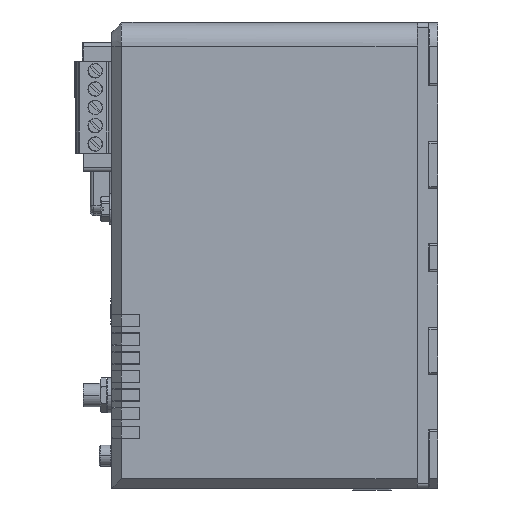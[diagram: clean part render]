
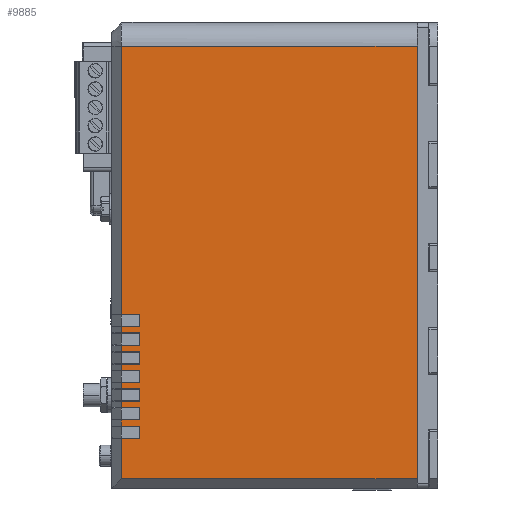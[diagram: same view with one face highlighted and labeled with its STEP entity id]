
A CAD part, left-side view. The second image highlights one B-rep face of the part: STEP entity #9885.
In plain terms, the highlighted planar face has unit normal (-1, 0, 0).
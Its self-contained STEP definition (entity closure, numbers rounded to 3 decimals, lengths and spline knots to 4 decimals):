
#983=DIRECTION('',(0.,-1.,0.));
#984=VECTOR('',#983,0.2);
#985=CARTESIAN_POINT('',(-1.,3.4,-0.6325));
#986=LINE('',#985,#984);
#995=DIRECTION('',(0.,1.,0.));
#996=VECTOR('',#995,0.2);
#997=CARTESIAN_POINT('',(-1.,3.2,-0.7675));
#998=LINE('',#997,#996);
#1011=DIRECTION('',(0.,0.,1.));
#1012=VECTOR('',#1011,0.4325);
#1013=CARTESIAN_POINT('',(-1.,3.4,-2.4));
#1014=LINE('',#1013,#1012);
#1015=DIRECTION('',(0.,0.,-1.));
#1016=VECTOR('',#1015,0.065);
#1017=CARTESIAN_POINT('',(-1.,3.4,-1.7675));
#1018=LINE('',#1017,#1016);
#1019=DIRECTION('',(0.,0.,-1.));
#1020=VECTOR('',#1019,0.065);
#1021=CARTESIAN_POINT('',(-1.,3.4,-1.5675));
#1022=LINE('',#1021,#1020);
#1023=DIRECTION('',(0.,0.,-1.));
#1024=VECTOR('',#1023,0.065);
#1025=CARTESIAN_POINT('',(-1.,3.4,-1.3675));
#1026=LINE('',#1025,#1024);
#1027=DIRECTION('',(0.,0.,-1.));
#1028=VECTOR('',#1027,0.065);
#1029=CARTESIAN_POINT('',(-1.,3.4,-1.1675));
#1030=LINE('',#1029,#1028);
#1031=DIRECTION('',(0.,0.,-1.));
#1032=VECTOR('',#1031,0.065);
#1033=CARTESIAN_POINT('',(-1.,3.4,-0.9675));
#1034=LINE('',#1033,#1032);
#1035=DIRECTION('',(0.,0.,-1.));
#1036=VECTOR('',#1035,0.065);
#1037=CARTESIAN_POINT('',(-1.,3.4,-0.7675));
#1038=LINE('',#1037,#1036);
#1039=DIRECTION('',(0.,0.,-1.));
#1040=VECTOR('',#1039,2.8825);
#1041=CARTESIAN_POINT('',(-1.,3.4,2.25));
#1042=LINE('',#1041,#1040);
#1043=DIRECTION('',(0.,-1.,0.));
#1044=VECTOR('',#1043,3.1805);
#1045=CARTESIAN_POINT('',(-1.,3.4,2.25));
#1046=LINE('',#1045,#1044);
#1047=DIRECTION('',(0.,1.,0.));
#1048=VECTOR('',#1047,3.1805);
#1049=CARTESIAN_POINT('',(-1.,0.2195,-2.4));
#1050=LINE('',#1049,#1048);
#1490=DIRECTION('',(0.,0.,1.));
#1491=VECTOR('',#1490,4.65);
#1492=CARTESIAN_POINT('',(-1.,0.2195,-2.4));
#1493=LINE('',#1492,#1491);
#4577=DIRECTION('',(0.,1.,0.));
#4578=VECTOR('',#4577,0.2);
#4579=CARTESIAN_POINT('',(-1.,3.2,-1.9675));
#4580=LINE('',#4579,#4578);
#4613=DIRECTION('',(0.,-1.,0.));
#4614=VECTOR('',#4613,0.2);
#4615=CARTESIAN_POINT('',(-1.,3.4,-1.8325));
#4616=LINE('',#4615,#4614);
#4621=DIRECTION('',(0.,1.,0.));
#4622=VECTOR('',#4621,0.2);
#4623=CARTESIAN_POINT('',(-1.,3.2,-1.7675));
#4624=LINE('',#4623,#4622);
#4665=DIRECTION('',(0.,-1.,0.));
#4666=VECTOR('',#4665,0.2);
#4667=CARTESIAN_POINT('',(-1.,3.4,-1.6325));
#4668=LINE('',#4667,#4666);
#4673=DIRECTION('',(0.,1.,0.));
#4674=VECTOR('',#4673,0.2);
#4675=CARTESIAN_POINT('',(-1.,3.2,-1.5675));
#4676=LINE('',#4675,#4674);
#4717=DIRECTION('',(0.,-1.,0.));
#4718=VECTOR('',#4717,0.2);
#4719=CARTESIAN_POINT('',(-1.,3.4,-1.4325));
#4720=LINE('',#4719,#4718);
#4725=DIRECTION('',(0.,1.,0.));
#4726=VECTOR('',#4725,0.2);
#4727=CARTESIAN_POINT('',(-1.,3.2,-1.3675));
#4728=LINE('',#4727,#4726);
#4769=DIRECTION('',(0.,-1.,0.));
#4770=VECTOR('',#4769,0.2);
#4771=CARTESIAN_POINT('',(-1.,3.4,-1.2325));
#4772=LINE('',#4771,#4770);
#4777=DIRECTION('',(0.,1.,0.));
#4778=VECTOR('',#4777,0.2);
#4779=CARTESIAN_POINT('',(-1.,3.2,-1.1675));
#4780=LINE('',#4779,#4778);
#4821=DIRECTION('',(0.,-1.,0.));
#4822=VECTOR('',#4821,0.2);
#4823=CARTESIAN_POINT('',(-1.,3.4,-1.0325));
#4824=LINE('',#4823,#4822);
#4829=DIRECTION('',(0.,1.,0.));
#4830=VECTOR('',#4829,0.2);
#4831=CARTESIAN_POINT('',(-1.,3.2,-0.9675));
#4832=LINE('',#4831,#4830);
#4873=DIRECTION('',(0.,-1.,0.));
#4874=VECTOR('',#4873,0.2);
#4875=CARTESIAN_POINT('',(-1.,3.4,-0.8325));
#4876=LINE('',#4875,#4874);
#4881=DIRECTION('',(0.,0.,-1.));
#4882=VECTOR('',#4881,0.135);
#4883=CARTESIAN_POINT('',(-1.,3.2,-0.8325));
#4884=LINE('',#4883,#4882);
#4893=DIRECTION('',(0.,0.,-1.));
#4894=VECTOR('',#4893,0.135);
#4895=CARTESIAN_POINT('',(-1.,3.2,-1.0325));
#4896=LINE('',#4895,#4894);
#4905=DIRECTION('',(0.,0.,-1.));
#4906=VECTOR('',#4905,0.135);
#4907=CARTESIAN_POINT('',(-1.,3.2,-1.2325));
#4908=LINE('',#4907,#4906);
#4917=DIRECTION('',(0.,0.,-1.));
#4918=VECTOR('',#4917,0.135);
#4919=CARTESIAN_POINT('',(-1.,3.2,-1.4325));
#4920=LINE('',#4919,#4918);
#4929=DIRECTION('',(0.,0.,-1.));
#4930=VECTOR('',#4929,0.135);
#4931=CARTESIAN_POINT('',(-1.,3.2,-1.6325));
#4932=LINE('',#4931,#4930);
#4941=DIRECTION('',(0.,0.,-1.));
#4942=VECTOR('',#4941,0.135);
#4943=CARTESIAN_POINT('',(-1.,3.2,-1.8325));
#4944=LINE('',#4943,#4942);
#4957=DIRECTION('',(0.,0.,-1.));
#4958=VECTOR('',#4957,0.135);
#4959=CARTESIAN_POINT('',(-1.,3.2,-0.6325));
#4960=LINE('',#4959,#4958);
#7024=CARTESIAN_POINT('',(-1.,0.2195,-2.4));
#7026=VERTEX_POINT('',#7024);
#7267=CARTESIAN_POINT('',(-1.,0.2195,2.25));
#7268=VERTEX_POINT('',#7267);
#7625=CARTESIAN_POINT('',(-1.,3.2,-1.8325));
#7626=CARTESIAN_POINT('',(-1.,3.2,-1.9675));
#7627=VERTEX_POINT('',#7625);
#7628=VERTEX_POINT('',#7626);
#7629=CARTESIAN_POINT('',(-1.,3.2,-1.6325));
#7630=CARTESIAN_POINT('',(-1.,3.2,-1.7675));
#7631=VERTEX_POINT('',#7629);
#7632=VERTEX_POINT('',#7630);
#7633=CARTESIAN_POINT('',(-1.,3.2,-1.4325));
#7634=CARTESIAN_POINT('',(-1.,3.2,-1.5675));
#7635=VERTEX_POINT('',#7633);
#7636=VERTEX_POINT('',#7634);
#7637=CARTESIAN_POINT('',(-1.,3.2,-1.2325));
#7638=CARTESIAN_POINT('',(-1.,3.2,-1.3675));
#7639=VERTEX_POINT('',#7637);
#7640=VERTEX_POINT('',#7638);
#7641=CARTESIAN_POINT('',(-1.,3.2,-1.0325));
#7642=CARTESIAN_POINT('',(-1.,3.2,-1.1675));
#7643=VERTEX_POINT('',#7641);
#7644=VERTEX_POINT('',#7642);
#7645=CARTESIAN_POINT('',(-1.,3.2,-0.8325));
#7646=CARTESIAN_POINT('',(-1.,3.2,-0.9675));
#7647=VERTEX_POINT('',#7645);
#7648=VERTEX_POINT('',#7646);
#7649=CARTESIAN_POINT('',(-1.,3.2,-0.6325));
#7650=CARTESIAN_POINT('',(-1.,3.2,-0.7675));
#7651=VERTEX_POINT('',#7649);
#7652=VERTEX_POINT('',#7650);
#8291=CARTESIAN_POINT('',(-1.,3.4,-2.4));
#8292=CARTESIAN_POINT('',(-1.,3.4,-1.9675));
#8293=VERTEX_POINT('',#8291);
#8294=VERTEX_POINT('',#8292);
#8295=CARTESIAN_POINT('',(-1.,3.4,-1.7675));
#8296=CARTESIAN_POINT('',(-1.,3.4,-1.8325));
#8297=VERTEX_POINT('',#8295);
#8298=VERTEX_POINT('',#8296);
#8299=CARTESIAN_POINT('',(-1.,3.4,-1.5675));
#8300=CARTESIAN_POINT('',(-1.,3.4,-1.6325));
#8301=VERTEX_POINT('',#8299);
#8302=VERTEX_POINT('',#8300);
#8303=CARTESIAN_POINT('',(-1.,3.4,-1.3675));
#8304=CARTESIAN_POINT('',(-1.,3.4,-1.4325));
#8305=VERTEX_POINT('',#8303);
#8306=VERTEX_POINT('',#8304);
#8307=CARTESIAN_POINT('',(-1.,3.4,-1.1675));
#8308=CARTESIAN_POINT('',(-1.,3.4,-1.2325));
#8309=VERTEX_POINT('',#8307);
#8310=VERTEX_POINT('',#8308);
#8311=CARTESIAN_POINT('',(-1.,3.4,-0.9675));
#8312=CARTESIAN_POINT('',(-1.,3.4,-1.0325));
#8313=VERTEX_POINT('',#8311);
#8314=VERTEX_POINT('',#8312);
#8315=CARTESIAN_POINT('',(-1.,3.4,-0.7675));
#8316=CARTESIAN_POINT('',(-1.,3.4,-0.8325));
#8317=VERTEX_POINT('',#8315);
#8318=VERTEX_POINT('',#8316);
#8319=CARTESIAN_POINT('',(-1.,3.4,2.25));
#8320=CARTESIAN_POINT('',(-1.,3.4,-0.6325));
#8321=VERTEX_POINT('',#8319);
#8322=VERTEX_POINT('',#8320);
#9816=CARTESIAN_POINT('',(-1.,0.2598,-0.075));
#9817=DIRECTION('',(1.,0.,0.));
#9818=DIRECTION('',(0.,0.,1.));
#9819=AXIS2_PLACEMENT_3D('',#9816,#9817,#9818);
#9820=PLANE('',#9819);
#9822=ORIENTED_EDGE('',*,*,#9821,.T.);
#9824=ORIENTED_EDGE('',*,*,#9823,.F.);
#9826=ORIENTED_EDGE('',*,*,#9825,.F.);
#9828=ORIENTED_EDGE('',*,*,#9827,.F.);
#9830=ORIENTED_EDGE('',*,*,#9829,.F.);
#9832=ORIENTED_EDGE('',*,*,#9831,.F.);
#9834=ORIENTED_EDGE('',*,*,#9833,.F.);
#9836=ORIENTED_EDGE('',*,*,#9835,.F.);
#9838=ORIENTED_EDGE('',*,*,#9837,.F.);
#9840=ORIENTED_EDGE('',*,*,#9839,.F.);
#9842=ORIENTED_EDGE('',*,*,#9841,.F.);
#9844=ORIENTED_EDGE('',*,*,#9843,.F.);
#9846=ORIENTED_EDGE('',*,*,#9845,.F.);
#9848=ORIENTED_EDGE('',*,*,#9847,.F.);
#9850=ORIENTED_EDGE('',*,*,#9849,.F.);
#9852=ORIENTED_EDGE('',*,*,#9851,.F.);
#9854=ORIENTED_EDGE('',*,*,#9853,.F.);
#9856=ORIENTED_EDGE('',*,*,#9855,.F.);
#9858=ORIENTED_EDGE('',*,*,#9857,.F.);
#9860=ORIENTED_EDGE('',*,*,#9859,.F.);
#9862=ORIENTED_EDGE('',*,*,#9861,.F.);
#9864=ORIENTED_EDGE('',*,*,#9863,.F.);
#9866=ORIENTED_EDGE('',*,*,#9865,.F.);
#9868=ORIENTED_EDGE('',*,*,#9867,.F.);
#9870=ORIENTED_EDGE('',*,*,#9869,.F.);
#9871=ORIENTED_EDGE('',*,*,#9803,.F.);
#9873=ORIENTED_EDGE('',*,*,#9872,.F.);
#9874=ORIENTED_EDGE('',*,*,#9778,.F.);
#9876=ORIENTED_EDGE('',*,*,#9875,.F.);
#9878=ORIENTED_EDGE('',*,*,#9877,.T.);
#9880=ORIENTED_EDGE('',*,*,#9879,.F.);
#9882=ORIENTED_EDGE('',*,*,#9881,.T.);
#9883=EDGE_LOOP('',(#9822,#9824,#9826,#9828,#9830,#9832,#9834,#9836,#9838,#9840,
#9842,#9844,#9846,#9848,#9850,#9852,#9854,#9856,#9858,#9860,#9862,#9864,#9866,
#9868,#9870,#9871,#9873,#9874,#9876,#9878,#9880,#9882));
#9884=FACE_OUTER_BOUND('',#9883,.F.);
#9885=ADVANCED_FACE('',(#9884),#9820,.F.);
#9778=EDGE_CURVE('',#8322,#7651,#986,.T.);
#9803=EDGE_CURVE('',#7652,#8317,#998,.T.);
#9821=EDGE_CURVE('',#8293,#8294,#1014,.T.);
#9823=EDGE_CURVE('',#7628,#8294,#4580,.T.);
#9825=EDGE_CURVE('',#7627,#7628,#4944,.T.);
#9827=EDGE_CURVE('',#8298,#7627,#4616,.T.);
#9829=EDGE_CURVE('',#8297,#8298,#1018,.T.);
#9831=EDGE_CURVE('',#7632,#8297,#4624,.T.);
#9833=EDGE_CURVE('',#7631,#7632,#4932,.T.);
#9835=EDGE_CURVE('',#8302,#7631,#4668,.T.);
#9837=EDGE_CURVE('',#8301,#8302,#1022,.T.);
#9839=EDGE_CURVE('',#7636,#8301,#4676,.T.);
#9841=EDGE_CURVE('',#7635,#7636,#4920,.T.);
#9843=EDGE_CURVE('',#8306,#7635,#4720,.T.);
#9845=EDGE_CURVE('',#8305,#8306,#1026,.T.);
#9847=EDGE_CURVE('',#7640,#8305,#4728,.T.);
#9849=EDGE_CURVE('',#7639,#7640,#4908,.T.);
#9851=EDGE_CURVE('',#8310,#7639,#4772,.T.);
#9853=EDGE_CURVE('',#8309,#8310,#1030,.T.);
#9855=EDGE_CURVE('',#7644,#8309,#4780,.T.);
#9857=EDGE_CURVE('',#7643,#7644,#4896,.T.);
#9859=EDGE_CURVE('',#8314,#7643,#4824,.T.);
#9861=EDGE_CURVE('',#8313,#8314,#1034,.T.);
#9863=EDGE_CURVE('',#7648,#8313,#4832,.T.);
#9865=EDGE_CURVE('',#7647,#7648,#4884,.T.);
#9867=EDGE_CURVE('',#8318,#7647,#4876,.T.);
#9869=EDGE_CURVE('',#8317,#8318,#1038,.T.);
#9872=EDGE_CURVE('',#7651,#7652,#4960,.T.);
#9875=EDGE_CURVE('',#8321,#8322,#1042,.T.);
#9877=EDGE_CURVE('',#8321,#7268,#1046,.T.);
#9879=EDGE_CURVE('',#7026,#7268,#1493,.T.);
#9881=EDGE_CURVE('',#7026,#8293,#1050,.T.);
